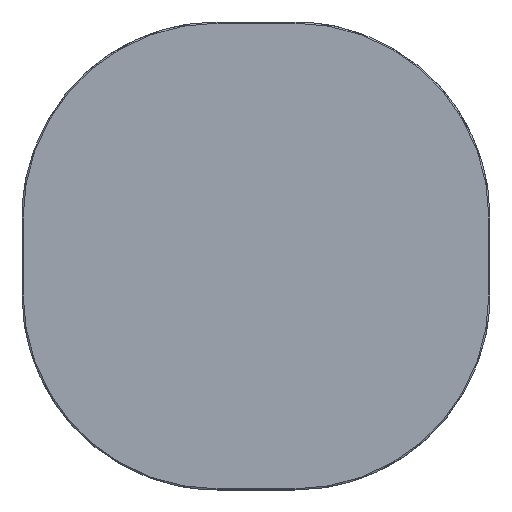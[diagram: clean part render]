
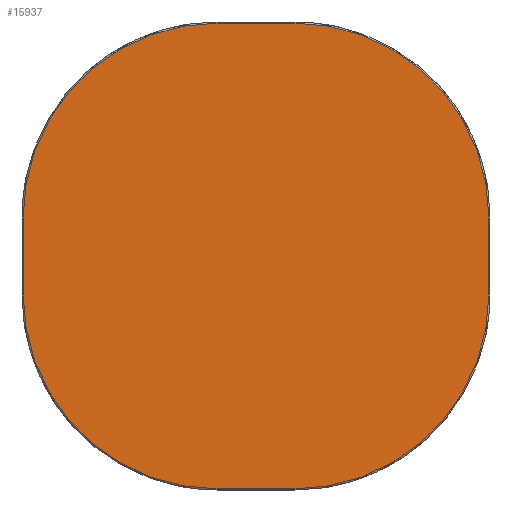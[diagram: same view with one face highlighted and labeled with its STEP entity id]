
A CAD part, top view. The second image highlights one B-rep face of the part: STEP entity #15937.
In plain terms, the highlighted planar face has unit normal (0, 0, 1).
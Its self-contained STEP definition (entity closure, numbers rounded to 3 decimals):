
#15847=CARTESIAN_POINT('',(0.,0.,20.));
#15848=DIRECTION('',(1.,0.,0.));
#15849=DIRECTION('',(0.,0.,1.));
#15850=AXIS2_PLACEMENT_3D('',#15847,#15849,#15848);
#15851=PLANE('',#15850);
#15852=CARTESIAN_POINT('',(-50.,-298.5,20.));
#15853=VERTEX_POINT('',#15852);
#15854=CARTESIAN_POINT('',(50.,-298.5,20.));
#15855=VERTEX_POINT('',#15854);
#15856=CARTESIAN_POINT('',(-50.,-298.5,20.));
#15857=DIRECTION('',(1.,0.,0.));
#15858=VECTOR('',#15857,100.);
#15859=LINE('',#15856,#15858);
#15860=EDGE_CURVE('',#15853,#15855,#15859,.T.);
#15861=ORIENTED_EDGE('E105',*,*,#15860,.T.);
#15862=CARTESIAN_POINT('',(298.5,-50.,20.));
#15863=VERTEX_POINT('',#15862);
#15864=CARTESIAN_POINT('',(50.,-50.,20.));
#15865=DIRECTION('',(0.,-1.,0.));
#15866=DIRECTION('',(0.,0.,1.));
#15867=AXIS2_PLACEMENT_3D('',#15864,#15866,#15865);
#15868=CIRCLE('',#15867,248.5);
#15869=EDGE_CURVE('',#15855,#15863,#15868,.T.);
#15870=ORIENTED_EDGE('E107',*,*,#15869,.T.);
#15871=CARTESIAN_POINT('',(298.5,50.001,20.));
#15872=VERTEX_POINT('',#15871);
#15873=CARTESIAN_POINT('',(298.5,-50.,20.));
#15874=CARTESIAN_POINT('',(298.5,-23.717,20.));
#15875=CARTESIAN_POINT('',(298.501,26.283,20.));
#15876=CARTESIAN_POINT('',(298.5,50.001,20.));
#15877=B_SPLINE_CURVE_WITH_KNOTS('',2,(#15873,#15874,#15875,#15876),.UNSPECIFIED.,.F.,.U.,(3,1,3),(0.,0.526,1.),.UNSPECIFIED.);
#15878=EDGE_CURVE('',#15863,#15872,#15877,.T.);
#15879=ORIENTED_EDGE('E109',*,*,#15878,.T.);
#15880=CARTESIAN_POINT('',(50.,298.5,20.));
#15881=VERTEX_POINT('',#15880);
#15882=CARTESIAN_POINT('',(50.,50.,20.));
#15883=DIRECTION('',(1.,0.,0.));
#15884=DIRECTION('',(0.,0.,1.));
#15885=AXIS2_PLACEMENT_3D('',#15882,#15884,#15883);
#15886=CIRCLE('',#15885,248.5);
#15887=EDGE_CURVE('',#15872,#15881,#15886,.T.);
#15888=ORIENTED_EDGE('E111',*,*,#15887,.T.);
#15889=CARTESIAN_POINT('',(-50.001,298.5,20.));
#15890=VERTEX_POINT('',#15889);
#15891=CARTESIAN_POINT('',(50.,298.5,20.));
#15892=CARTESIAN_POINT('',(44.06,298.499,20.));
#15893=CARTESIAN_POINT('',(33.903,298.5,20.));
#15894=CARTESIAN_POINT('',(23.359,298.5,20.));
#15895=CARTESIAN_POINT('',(7.191,298.5,20.));
#15896=CARTESIAN_POINT('',(-12.023,298.5,20.));
#15897=CARTESIAN_POINT('',(-27.644,298.501,20.));
#15898=CARTESIAN_POINT('',(-38.058,298.499,20.));
#15899=CARTESIAN_POINT('',(-46.112,298.498,20.));
#15900=CARTESIAN_POINT('',(-50.001,298.5,20.));
#15901=B_SPLINE_CURVE_WITH_KNOTS('',2,(#15891,#15892,#15893,#15894,#15895,#15896,#15897,#15898,#15899,#15900),.UNSPECIFIED.,.F.,.U.,(3,1,1,1,1,1,1,1,3),(0.,0.119,0.203,0.33,0.527,0.714,0.839,0.922,1.),.UNSPECIFIED.);
#15902=EDGE_CURVE('',#15881,#15890,#15901,.T.);
#15903=ORIENTED_EDGE('E113',*,*,#15902,.T.);
#15904=CARTESIAN_POINT('',(-298.5,50.,20.));
#15905=VERTEX_POINT('',#15904);
#15906=CARTESIAN_POINT('',(-50.,50.,20.));
#15907=DIRECTION('',(0.,1.,0.));
#15908=DIRECTION('',(0.,0.,1.));
#15909=AXIS2_PLACEMENT_3D('',#15906,#15908,#15907);
#15910=CIRCLE('',#15909,248.5);
#15911=EDGE_CURVE('',#15890,#15905,#15910,.T.);
#15912=ORIENTED_EDGE('E115',*,*,#15911,.T.);
#15913=CARTESIAN_POINT('',(-298.5,-50.001,20.));
#15914=VERTEX_POINT('',#15913);
#15915=CARTESIAN_POINT('',(-298.5,50.,20.));
#15916=CARTESIAN_POINT('',(-298.499,44.06,20.));
#15917=CARTESIAN_POINT('',(-298.5,33.903,20.));
#15918=CARTESIAN_POINT('',(-298.5,23.359,20.));
#15919=CARTESIAN_POINT('',(-298.5,7.191,20.));
#15920=CARTESIAN_POINT('',(-298.5,-12.023,20.));
#15921=CARTESIAN_POINT('',(-298.501,-27.644,20.));
#15922=CARTESIAN_POINT('',(-298.499,-38.058,20.));
#15923=CARTESIAN_POINT('',(-298.498,-46.112,20.));
#15924=CARTESIAN_POINT('',(-298.5,-50.001,20.));
#15925=B_SPLINE_CURVE_WITH_KNOTS('',2,(#15915,#15916,#15917,#15918,#15919,#15920,#15921,#15922,#15923,#15924),.UNSPECIFIED.,.F.,.U.,(3,1,1,1,1,1,1,1,3),(0.,0.119,0.203,0.33,0.527,0.714,0.839,0.922,1.),.UNSPECIFIED.);
#15926=EDGE_CURVE('',#15905,#15914,#15925,.T.);
#15927=ORIENTED_EDGE('E117',*,*,#15926,.T.);
#15928=CARTESIAN_POINT('',(-50.,-50.,20.));
#15929=DIRECTION('',(-1.,0.,0.));
#15930=DIRECTION('',(0.,0.,1.));
#15931=AXIS2_PLACEMENT_3D('',#15928,#15930,#15929);
#15932=CIRCLE('',#15931,248.5);
#15933=EDGE_CURVE('',#15914,#15853,#15932,.T.);
#15934=ORIENTED_EDGE('E119',*,*,#15933,.T.);
#15935=EDGE_LOOP('',(#15861,#15870,#15879,#15888,#15903,#15912,#15927,#15934));
#15936=FACE_OUTER_BOUND('',#15935,.T.);
#15937=ADVANCED_FACE('F2',(#15936),#15851,.T.);
